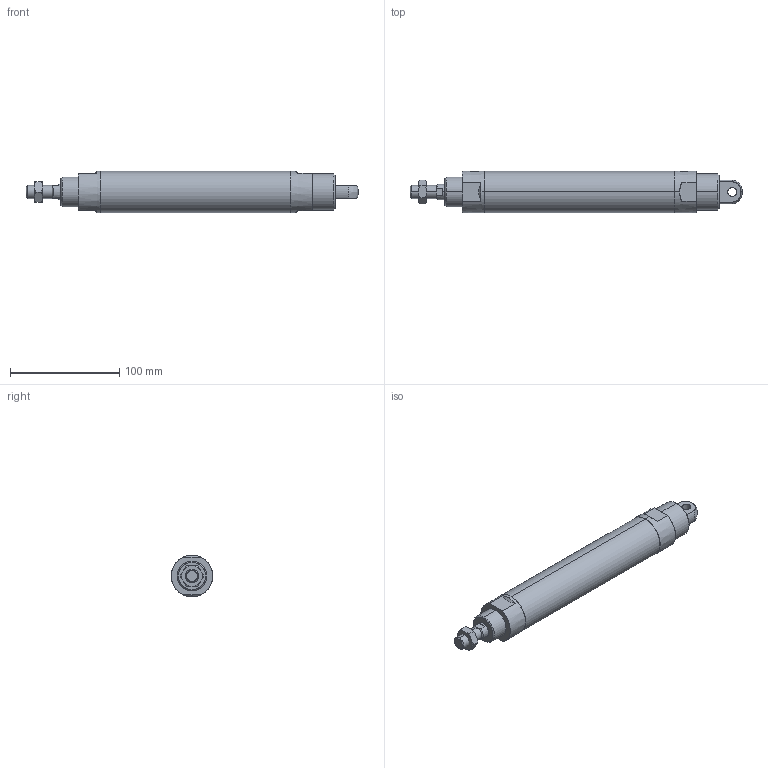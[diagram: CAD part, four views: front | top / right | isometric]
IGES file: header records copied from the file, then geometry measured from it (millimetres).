
Start section: SolidWorks IGES file using analytic representation for surfaces
Global section: file name: C:\Users\Toshiba\Desktop\J#2-32-125-C.IGS; native system: SolidWorks 2014; preprocessor: SolidWorks 2014; author: Toshiba; date: 160308.153822; units: millimetre
Bounding box: 304 x 38 x 38 mm (x, y, z)
Surface area: 35836.6 mm2 (no closed solid volume)
Topology: 0 solids, 0 shells, 81 faces, 1552 edges, 1548 vertices
Faces by surface type: bspline 42, revolution 39
